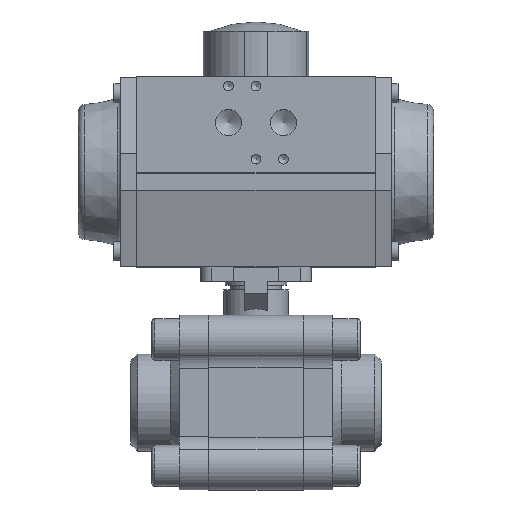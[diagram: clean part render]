
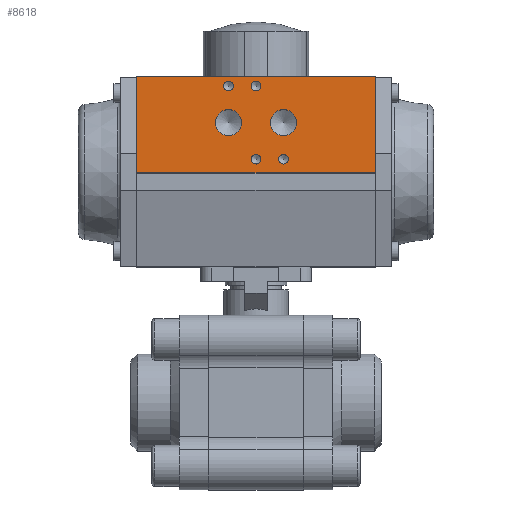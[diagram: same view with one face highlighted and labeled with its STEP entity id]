
A CAD part, top view. The second image highlights one B-rep face of the part: STEP entity #8618.
In plain terms, the highlighted planar face has unit normal (0, 0, 1) as drawn and (1, 0, 0) by its records, which use the part's own axes.
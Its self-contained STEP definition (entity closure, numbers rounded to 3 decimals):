
#38 = LINE ( 'NONE', #4452, #6233 ) ;
#48 = DIRECTION ( 'NONE',  ( 1., 0., 0. ) ) ;
#335 = EDGE_LOOP ( 'NONE', ( #9180 ) ) ;
#547 = EDGE_LOOP ( 'NONE', ( #8585 ) ) ;
#558 = PLANE ( 'NONE',  #4317 ) ;
#626 = AXIS2_PLACEMENT_3D ( 'NONE', #9892, #5520, #9030 ) ;
#744 = DIRECTION ( 'NONE',  ( 0., 1., 0. ) ) ;
#1142 = DIRECTION ( 'NONE',  ( 0., 0., -1. ) ) ;
#1169 = EDGE_LOOP ( 'NONE', ( #1870 ) ) ;
#1217 = CARTESIAN_POINT ( 'NONE',  ( 42.5, 37.5, 12. ) ) ;
#1272 = CARTESIAN_POINT ( 'NONE',  ( 42.5, 5.5, -2.1 ) ) ;
#1311 = DIRECTION ( 'NONE',  ( 0., 1., 0. ) ) ;
#1328 = VERTEX_POINT ( 'NONE', #2658 ) ;
#1348 = VECTOR ( 'NONE', #11309, 1000. ) ;
#1360 = CIRCLE ( 'NONE', #626, 2.1 ) ;
#1383 = EDGE_CURVE ( 'NONE', #3632, #3632, #7938, .T. ) ;
#1438 = FACE_BOUND ( 'NONE', #547, .T. ) ;
#1447 = CARTESIAN_POINT ( 'NONE',  ( 42.5, 41.5, -52. ) ) ;
#1608 = EDGE_CURVE ( 'NONE', #6405, #6405, #10316, .T. ) ;
#1794 = CARTESIAN_POINT ( 'NONE',  ( 42.5, -0.5, -52. ) ) ;
#1870 = ORIENTED_EDGE ( 'NONE', *, *, #1383, .F. ) ;
#1872 = ORIENTED_EDGE ( 'NONE', *, *, #1608, .F. ) ;
#2226 = FACE_BOUND ( 'NONE', #3923, .T. ) ;
#2308 = CARTESIAN_POINT ( 'NONE',  ( 42.5, 21.5, -17.722 ) ) ;
#2314 = AXIS2_PLACEMENT_3D ( 'NONE', #7982, #48, #10469 ) ;
#2489 = LINE ( 'NONE', #1794, #10228 ) ;
#2533 = DIRECTION ( 'NONE',  ( 1., 0., 0. ) ) ;
#2597 = EDGE_CURVE ( 'NONE', #6992, #9978, #10300, .T. ) ;
#2658 = CARTESIAN_POINT ( 'NONE',  ( 42.5, 37.5, -2.1 ) ) ;
#2763 = LINE ( 'NONE', #3639, #1348 ) ;
#2868 = CARTESIAN_POINT ( 'NONE',  ( 42.5, 37.5, 9.9 ) ) ;
#2972 = VECTOR ( 'NONE', #5064, 1000. ) ;
#3022 = EDGE_CURVE ( 'NONE', #7847, #9978, #2763, .T. ) ;
#3513 = AXIS2_PLACEMENT_3D ( 'NONE', #1217, #10931, #4019 ) ;
#3545 = ORIENTED_EDGE ( 'NONE', *, *, #10845, .F. ) ;
#3632 = VERTEX_POINT ( 'NONE', #2868 ) ;
#3639 = CARTESIAN_POINT ( 'NONE',  ( 42.5, -0.5, 52. ) ) ;
#3787 = ORIENTED_EDGE ( 'NONE', *, *, #9670, .F. ) ;
#3923 = EDGE_LOOP ( 'NONE', ( #9002 ) ) ;
#3970 = VERTEX_POINT ( 'NONE', #9220 ) ;
#3996 = FACE_BOUND ( 'NONE', #11114, .T. ) ;
#4018 = EDGE_CURVE ( 'NONE', #3970, #3970, #10270, .T. ) ;
#4019 = DIRECTION ( 'NONE',  ( 0., 0., -1. ) ) ;
#4174 = CARTESIAN_POINT ( 'NONE',  ( 42.5, -0.5, -52. ) ) ;
#4317 = AXIS2_PLACEMENT_3D ( 'NONE', #4174, #7632, #1311 ) ;
#4327 = CARTESIAN_POINT ( 'NONE',  ( 42.5, -0.5, 52. ) ) ;
#4452 = CARTESIAN_POINT ( 'NONE',  ( 42.5, -0.5, -52. ) ) ;
#4703 = CARTESIAN_POINT ( 'NONE',  ( 42.5, 21.5, 12. ) ) ;
#4777 = CARTESIAN_POINT ( 'NONE',  ( 42.5, -0.5, -52. ) ) ;
#4990 = FACE_OUTER_BOUND ( 'NONE', #6614, .T. ) ;
#5064 = DIRECTION ( 'NONE',  ( 0., 0., 1. ) ) ;
#5352 = AXIS2_PLACEMENT_3D ( 'NONE', #4703, #5626, #1142 ) ;
#5520 = DIRECTION ( 'NONE',  ( 1., 0., 0. ) ) ;
#5626 = DIRECTION ( 'NONE',  ( 1., 0., 0. ) ) ;
#5848 = FACE_BOUND ( 'NONE', #1169, .T. ) ;
#5862 = CIRCLE ( 'NONE', #9167, 2.1 ) ;
#6233 = VECTOR ( 'NONE', #8729, 1000. ) ;
#6405 = VERTEX_POINT ( 'NONE', #6804 ) ;
#6611 = VERTEX_POINT ( 'NONE', #2308 ) ;
#6614 = EDGE_LOOP ( 'NONE', ( #11247, #7005, #3545, #11165 ) ) ;
#6654 = FACE_BOUND ( 'NONE', #10881, .T. ) ;
#6671 = VERTEX_POINT ( 'NONE', #1272 ) ;
#6792 = CIRCLE ( 'NONE', #9735, 5.722 ) ;
#6804 = CARTESIAN_POINT ( 'NONE',  ( 42.5, 21.5, 6.277 ) ) ;
#6883 = DIRECTION ( 'NONE',  ( 0., 0., -1. ) ) ;
#6992 = VERTEX_POINT ( 'NONE', #8571 ) ;
#7005 = ORIENTED_EDGE ( 'NONE', *, *, #3022, .F. ) ;
#7632 = DIRECTION ( 'NONE',  ( 1., 0., 0. ) ) ;
#7847 = VERTEX_POINT ( 'NONE', #4327 ) ;
#7863 = CARTESIAN_POINT ( 'NONE',  ( 42.5, 21.5, -12. ) ) ;
#7938 = CIRCLE ( 'NONE', #3513, 2.1 ) ;
#7982 = CARTESIAN_POINT ( 'NONE',  ( 42.5, 5.5, -12. ) ) ;
#8451 = EDGE_CURVE ( 'NONE', #6611, #6611, #6792, .T. ) ;
#8571 = CARTESIAN_POINT ( 'NONE',  ( 42.5, 41.5, -52. ) ) ;
#8585 = ORIENTED_EDGE ( 'NONE', *, *, #10919, .F. ) ;
#8618 = ADVANCED_FACE ( 'NONE', ( #5848, #9366, #3996, #1438, #2226, #6654, #4990 ), #558, .T. ) ;
#8729 = DIRECTION ( 'NONE',  ( 0., 0., 1. ) ) ;
#8843 = DIRECTION ( 'NONE',  ( 1., 0., 0. ) ) ;
#9002 = ORIENTED_EDGE ( 'NONE', *, *, #8451, .F. ) ;
#9016 = CARTESIAN_POINT ( 'NONE',  ( 42.5, 41.5, 52. ) ) ;
#9030 = DIRECTION ( 'NONE',  ( 0., 0., -1. ) ) ;
#9167 = AXIS2_PLACEMENT_3D ( 'NONE', #11363, #8843, #9543 ) ;
#9180 = ORIENTED_EDGE ( 'NONE', *, *, #4018, .F. ) ;
#9220 = CARTESIAN_POINT ( 'NONE',  ( 42.5, 5.5, -14.1 ) ) ;
#9366 = FACE_BOUND ( 'NONE', #335, .T. ) ;
#9514 = EDGE_CURVE ( 'NONE', #10502, #6992, #2489, .T. ) ;
#9543 = DIRECTION ( 'NONE',  ( 0., 0., -1. ) ) ;
#9670 = EDGE_CURVE ( 'NONE', #6671, #6671, #1360, .T. ) ;
#9735 = AXIS2_PLACEMENT_3D ( 'NONE', #7863, #2533, #6883 ) ;
#9892 = CARTESIAN_POINT ( 'NONE',  ( 42.5, 5.5, 0. ) ) ;
#9978 = VERTEX_POINT ( 'NONE', #9016 ) ;
#10228 = VECTOR ( 'NONE', #744, 1000. ) ;
#10270 = CIRCLE ( 'NONE', #2314, 2.1 ) ;
#10300 = LINE ( 'NONE', #1447, #2972 ) ;
#10316 = CIRCLE ( 'NONE', #5352, 5.722 ) ;
#10469 = DIRECTION ( 'NONE',  ( 0., 0., -1. ) ) ;
#10502 = VERTEX_POINT ( 'NONE', #4777 ) ;
#10845 = EDGE_CURVE ( 'NONE', #10502, #7847, #38, .T. ) ;
#10881 = EDGE_LOOP ( 'NONE', ( #1872 ) ) ;
#10919 = EDGE_CURVE ( 'NONE', #1328, #1328, #5862, .T. ) ;
#10931 = DIRECTION ( 'NONE',  ( 1., 0., 0. ) ) ;
#11114 = EDGE_LOOP ( 'NONE', ( #3787 ) ) ;
#11165 = ORIENTED_EDGE ( 'NONE', *, *, #9514, .T. ) ;
#11247 = ORIENTED_EDGE ( 'NONE', *, *, #2597, .T. ) ;
#11309 = DIRECTION ( 'NONE',  ( 0., 1., 0. ) ) ;
#11363 = CARTESIAN_POINT ( 'NONE',  ( 42.5, 37.5, 0. ) ) ;
